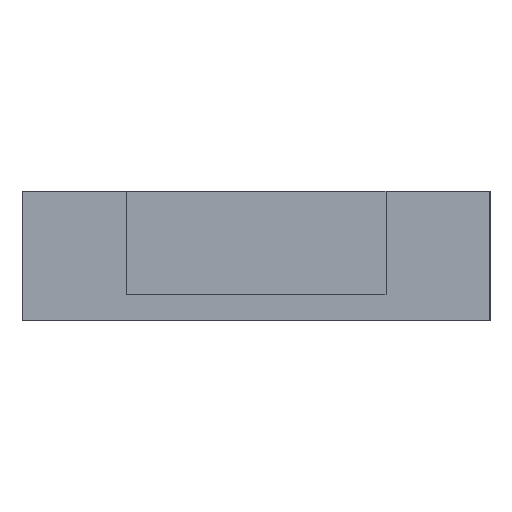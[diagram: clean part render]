
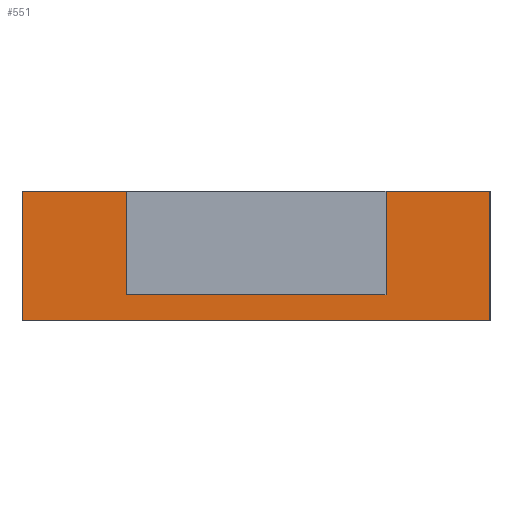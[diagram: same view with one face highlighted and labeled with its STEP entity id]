
A CAD part, left-side view. The second image highlights one B-rep face of the part: STEP entity #551.
In plain terms, the highlighted planar face has unit normal (-1, 0, 0).
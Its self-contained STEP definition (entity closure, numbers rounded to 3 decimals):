
#44 = PLANE('',#45);
#45 = AXIS2_PLACEMENT_3D('',#46,#47,#48);
#46 = CARTESIAN_POINT('',(0.,0.,0.));
#47 = DIRECTION('',(0.,1.,0.));
#48 = DIRECTION('',(0.,0.,1.));
#72 = PLANE('',#73);
#73 = AXIS2_PLACEMENT_3D('',#74,#75,#76);
#74 = CARTESIAN_POINT('',(0.,0.,0.));
#75 = DIRECTION('',(0.,0.,1.));
#76 = DIRECTION('',(1.,0.,0.));
#100 = PLANE('',#101);
#101 = AXIS2_PLACEMENT_3D('',#102,#103,#104);
#102 = CARTESIAN_POINT('',(0.,45.72,0.));
#103 = DIRECTION('',(0.,1.,0.));
#104 = DIRECTION('',(0.,0.,1.));
#126 = PLANE('',#127);
#127 = AXIS2_PLACEMENT_3D('',#128,#129,#130);
#128 = CARTESIAN_POINT('',(0.,0.,12.7));
#129 = DIRECTION('',(0.,0.,1.));
#130 = DIRECTION('',(1.,0.,0.));
#142 = VERTEX_POINT('',#143);
#143 = CARTESIAN_POINT('',(0.,0.,0.));
#164 = EDGE_CURVE('',#142,#165,#167,.T.);
#165 = VERTEX_POINT('',#166);
#166 = CARTESIAN_POINT('',(0.,0.,12.7));
#167 = SURFACE_CURVE('',#168,(#172,#179),.PCURVE_S1.);
#168 = LINE('',#169,#170);
#169 = CARTESIAN_POINT('',(0.,0.,0.));
#170 = VECTOR('',#171,1.);
#171 = DIRECTION('',(0.,0.,1.));
#172 = PCURVE('',#44,#173);
#173 = DEFINITIONAL_REPRESENTATION('',(#174),#178);
#174 = LINE('',#175,#176);
#175 = CARTESIAN_POINT('',(0.,0.));
#176 = VECTOR('',#177,1.);
#177 = DIRECTION('',(1.,0.));
#178 = ( GEOMETRIC_REPRESENTATION_CONTEXT(2) 
PARAMETRIC_REPRESENTATION_CONTEXT() REPRESENTATION_CONTEXT('2D SPACE',''
  ) );
#179 = PCURVE('',#180,#185);
#180 = PLANE('',#181);
#181 = AXIS2_PLACEMENT_3D('',#182,#183,#184);
#182 = CARTESIAN_POINT('',(0.,0.,0.));
#183 = DIRECTION('',(1.,0.,0.));
#184 = DIRECTION('',(0.,0.,1.));
#185 = DEFINITIONAL_REPRESENTATION('',(#186),#190);
#186 = LINE('',#187,#188);
#187 = CARTESIAN_POINT('',(0.,0.));
#188 = VECTOR('',#189,1.);
#189 = DIRECTION('',(1.,0.));
#190 = ( GEOMETRIC_REPRESENTATION_CONTEXT(2) 
PARAMETRIC_REPRESENTATION_CONTEXT() REPRESENTATION_CONTEXT('2D SPACE',''
  ) );
#327 = EDGE_CURVE('',#165,#328,#330,.T.);
#328 = VERTEX_POINT('',#329);
#329 = CARTESIAN_POINT('',(0.,10.16,12.7));
#330 = SURFACE_CURVE('',#331,(#335,#342),.PCURVE_S1.);
#331 = LINE('',#332,#333);
#332 = CARTESIAN_POINT('',(0.,0.,12.7));
#333 = VECTOR('',#334,1.);
#334 = DIRECTION('',(0.,1.,0.));
#335 = PCURVE('',#126,#336);
#336 = DEFINITIONAL_REPRESENTATION('',(#337),#341);
#337 = LINE('',#338,#339);
#338 = CARTESIAN_POINT('',(0.,0.));
#339 = VECTOR('',#340,1.);
#340 = DIRECTION('',(0.,1.));
#341 = ( GEOMETRIC_REPRESENTATION_CONTEXT(2) 
PARAMETRIC_REPRESENTATION_CONTEXT() REPRESENTATION_CONTEXT('2D SPACE',''
  ) );
#342 = PCURVE('',#180,#343);
#343 = DEFINITIONAL_REPRESENTATION('',(#344),#348);
#344 = LINE('',#345,#346);
#345 = CARTESIAN_POINT('',(12.7,0.));
#346 = VECTOR('',#347,1.);
#347 = DIRECTION('',(0.,-1.));
#348 = ( GEOMETRIC_REPRESENTATION_CONTEXT(2) 
PARAMETRIC_REPRESENTATION_CONTEXT() REPRESENTATION_CONTEXT('2D SPACE',''
  ) );
#353 = VERTEX_POINT('',#354);
#354 = CARTESIAN_POINT('',(0.,45.72,12.7));
#375 = EDGE_CURVE('',#376,#353,#378,.T.);
#376 = VERTEX_POINT('',#377);
#377 = CARTESIAN_POINT('',(0.,35.56,
    12.7));
#378 = SURFACE_CURVE('',#379,(#383,#390),.PCURVE_S1.);
#379 = LINE('',#380,#381);
#380 = CARTESIAN_POINT('',(0.,0.,12.7));
#381 = VECTOR('',#382,1.);
#382 = DIRECTION('',(0.,1.,0.));
#383 = PCURVE('',#126,#384);
#384 = DEFINITIONAL_REPRESENTATION('',(#385),#389);
#385 = LINE('',#386,#387);
#386 = CARTESIAN_POINT('',(0.,0.));
#387 = VECTOR('',#388,1.);
#388 = DIRECTION('',(0.,1.));
#389 = ( GEOMETRIC_REPRESENTATION_CONTEXT(2) 
PARAMETRIC_REPRESENTATION_CONTEXT() REPRESENTATION_CONTEXT('2D SPACE',''
  ) );
#390 = PCURVE('',#180,#391);
#391 = DEFINITIONAL_REPRESENTATION('',(#392),#396);
#392 = LINE('',#393,#394);
#393 = CARTESIAN_POINT('',(12.7,0.));
#394 = VECTOR('',#395,1.);
#395 = DIRECTION('',(0.,-1.));
#396 = ( GEOMETRIC_REPRESENTATION_CONTEXT(2) 
PARAMETRIC_REPRESENTATION_CONTEXT() REPRESENTATION_CONTEXT('2D SPACE',''
  ) );
#428 = VERTEX_POINT('',#429);
#429 = CARTESIAN_POINT('',(0.,45.72,0.));
#450 = EDGE_CURVE('',#428,#353,#451,.T.);
#451 = SURFACE_CURVE('',#452,(#456,#463),.PCURVE_S1.);
#452 = LINE('',#453,#454);
#453 = CARTESIAN_POINT('',(0.,45.72,0.));
#454 = VECTOR('',#455,1.);
#455 = DIRECTION('',(0.,0.,1.));
#456 = PCURVE('',#100,#457);
#457 = DEFINITIONAL_REPRESENTATION('',(#458),#462);
#458 = LINE('',#459,#460);
#459 = CARTESIAN_POINT('',(0.,0.));
#460 = VECTOR('',#461,1.);
#461 = DIRECTION('',(1.,0.));
#462 = ( GEOMETRIC_REPRESENTATION_CONTEXT(2) 
PARAMETRIC_REPRESENTATION_CONTEXT() REPRESENTATION_CONTEXT('2D SPACE',''
  ) );
#463 = PCURVE('',#180,#464);
#464 = DEFINITIONAL_REPRESENTATION('',(#465),#469);
#465 = LINE('',#466,#467);
#466 = CARTESIAN_POINT('',(0.,-45.72));
#467 = VECTOR('',#468,1.);
#468 = DIRECTION('',(1.,0.));
#469 = ( GEOMETRIC_REPRESENTATION_CONTEXT(2) 
PARAMETRIC_REPRESENTATION_CONTEXT() REPRESENTATION_CONTEXT('2D SPACE',''
  ) );
#528 = EDGE_CURVE('',#142,#428,#529,.T.);
#529 = SURFACE_CURVE('',#530,(#534,#541),.PCURVE_S1.);
#530 = LINE('',#531,#532);
#531 = CARTESIAN_POINT('',(0.,0.,0.));
#532 = VECTOR('',#533,1.);
#533 = DIRECTION('',(0.,1.,0.));
#534 = PCURVE('',#72,#535);
#535 = DEFINITIONAL_REPRESENTATION('',(#536),#540);
#536 = LINE('',#537,#538);
#537 = CARTESIAN_POINT('',(0.,0.));
#538 = VECTOR('',#539,1.);
#539 = DIRECTION('',(0.,1.));
#540 = ( GEOMETRIC_REPRESENTATION_CONTEXT(2) 
PARAMETRIC_REPRESENTATION_CONTEXT() REPRESENTATION_CONTEXT('2D SPACE',''
  ) );
#541 = PCURVE('',#180,#542);
#542 = DEFINITIONAL_REPRESENTATION('',(#543),#547);
#543 = LINE('',#544,#545);
#544 = CARTESIAN_POINT('',(0.,0.));
#545 = VECTOR('',#546,1.);
#546 = DIRECTION('',(0.,-1.));
#547 = ( GEOMETRIC_REPRESENTATION_CONTEXT(2) 
PARAMETRIC_REPRESENTATION_CONTEXT() REPRESENTATION_CONTEXT('2D SPACE',''
  ) );
#551 = ADVANCED_FACE('',(#552),#180,.F.);
#552 = FACE_BOUND('',#553,.F.);
#553 = EDGE_LOOP('',(#554,#555,#556,#557,#558,#559,#587,#615));
#554 = ORIENTED_EDGE('',*,*,#327,.F.);
#555 = ORIENTED_EDGE('',*,*,#164,.F.);
#556 = ORIENTED_EDGE('',*,*,#528,.T.);
#557 = ORIENTED_EDGE('',*,*,#450,.T.);
#558 = ORIENTED_EDGE('',*,*,#375,.F.);
#559 = ORIENTED_EDGE('',*,*,#560,.F.);
#560 = EDGE_CURVE('',#561,#376,#563,.T.);
#561 = VERTEX_POINT('',#562);
#562 = CARTESIAN_POINT('',(0.,35.56,2.54));
#563 = SURFACE_CURVE('',#564,(#568,#575),.PCURVE_S1.);
#564 = LINE('',#565,#566);
#565 = CARTESIAN_POINT('',(0.,35.56,2.54));
#566 = VECTOR('',#567,1.);
#567 = DIRECTION('',(0.,0.,1.));
#568 = PCURVE('',#180,#569);
#569 = DEFINITIONAL_REPRESENTATION('',(#570),#574);
#570 = LINE('',#571,#572);
#571 = CARTESIAN_POINT('',(2.54,-35.56));
#572 = VECTOR('',#573,1.);
#573 = DIRECTION('',(1.,0.));
#574 = ( GEOMETRIC_REPRESENTATION_CONTEXT(2) 
PARAMETRIC_REPRESENTATION_CONTEXT() REPRESENTATION_CONTEXT('2D SPACE',''
  ) );
#575 = PCURVE('',#576,#581);
#576 = PLANE('',#577);
#577 = AXIS2_PLACEMENT_3D('',#578,#579,#580);
#578 = CARTESIAN_POINT('',(-6.35,35.56,2.54));
#579 = DIRECTION('',(0.,1.,0.));
#580 = DIRECTION('',(0.,0.,1.));
#581 = DEFINITIONAL_REPRESENTATION('',(#582),#586);
#582 = LINE('',#583,#584);
#583 = CARTESIAN_POINT('',(0.,6.35));
#584 = VECTOR('',#585,1.);
#585 = DIRECTION('',(1.,0.));
#586 = ( GEOMETRIC_REPRESENTATION_CONTEXT(2) 
PARAMETRIC_REPRESENTATION_CONTEXT() REPRESENTATION_CONTEXT('2D SPACE',''
  ) );
#587 = ORIENTED_EDGE('',*,*,#588,.F.);
#588 = EDGE_CURVE('',#589,#561,#591,.T.);
#589 = VERTEX_POINT('',#590);
#590 = CARTESIAN_POINT('',(0.,10.16,2.54));
#591 = SURFACE_CURVE('',#592,(#596,#603),.PCURVE_S1.);
#592 = LINE('',#593,#594);
#593 = CARTESIAN_POINT('',(0.,10.16,2.54));
#594 = VECTOR('',#595,1.);
#595 = DIRECTION('',(0.,1.,0.));
#596 = PCURVE('',#180,#597);
#597 = DEFINITIONAL_REPRESENTATION('',(#598),#602);
#598 = LINE('',#599,#600);
#599 = CARTESIAN_POINT('',(2.54,-10.16));
#600 = VECTOR('',#601,1.);
#601 = DIRECTION('',(0.,-1.));
#602 = ( GEOMETRIC_REPRESENTATION_CONTEXT(2) 
PARAMETRIC_REPRESENTATION_CONTEXT() REPRESENTATION_CONTEXT('2D SPACE',''
  ) );
#603 = PCURVE('',#604,#609);
#604 = PLANE('',#605);
#605 = AXIS2_PLACEMENT_3D('',#606,#607,#608);
#606 = CARTESIAN_POINT('',(-6.35,10.16,2.54));
#607 = DIRECTION('',(0.,0.,1.));
#608 = DIRECTION('',(1.,0.,0.));
#609 = DEFINITIONAL_REPRESENTATION('',(#610),#614);
#610 = LINE('',#611,#612);
#611 = CARTESIAN_POINT('',(6.35,0.));
#612 = VECTOR('',#613,1.);
#613 = DIRECTION('',(0.,1.));
#614 = ( GEOMETRIC_REPRESENTATION_CONTEXT(2) 
PARAMETRIC_REPRESENTATION_CONTEXT() REPRESENTATION_CONTEXT('2D SPACE',''
  ) );
#615 = ORIENTED_EDGE('',*,*,#616,.T.);
#616 = EDGE_CURVE('',#589,#328,#617,.T.);
#617 = SURFACE_CURVE('',#618,(#622,#629),.PCURVE_S1.);
#618 = LINE('',#619,#620);
#619 = CARTESIAN_POINT('',(0.,10.16,2.54));
#620 = VECTOR('',#621,1.);
#621 = DIRECTION('',(0.,0.,1.));
#622 = PCURVE('',#180,#623);
#623 = DEFINITIONAL_REPRESENTATION('',(#624),#628);
#624 = LINE('',#625,#626);
#625 = CARTESIAN_POINT('',(2.54,-10.16));
#626 = VECTOR('',#627,1.);
#627 = DIRECTION('',(1.,0.));
#628 = ( GEOMETRIC_REPRESENTATION_CONTEXT(2) 
PARAMETRIC_REPRESENTATION_CONTEXT() REPRESENTATION_CONTEXT('2D SPACE',''
  ) );
#629 = PCURVE('',#630,#635);
#630 = PLANE('',#631);
#631 = AXIS2_PLACEMENT_3D('',#632,#633,#634);
#632 = CARTESIAN_POINT('',(-6.35,10.16,2.54));
#633 = DIRECTION('',(0.,1.,0.));
#634 = DIRECTION('',(0.,0.,1.));
#635 = DEFINITIONAL_REPRESENTATION('',(#636),#640);
#636 = LINE('',#637,#638);
#637 = CARTESIAN_POINT('',(0.,6.35));
#638 = VECTOR('',#639,1.);
#639 = DIRECTION('',(1.,0.));
#640 = ( GEOMETRIC_REPRESENTATION_CONTEXT(2) 
PARAMETRIC_REPRESENTATION_CONTEXT() REPRESENTATION_CONTEXT('2D SPACE',''
  ) );
